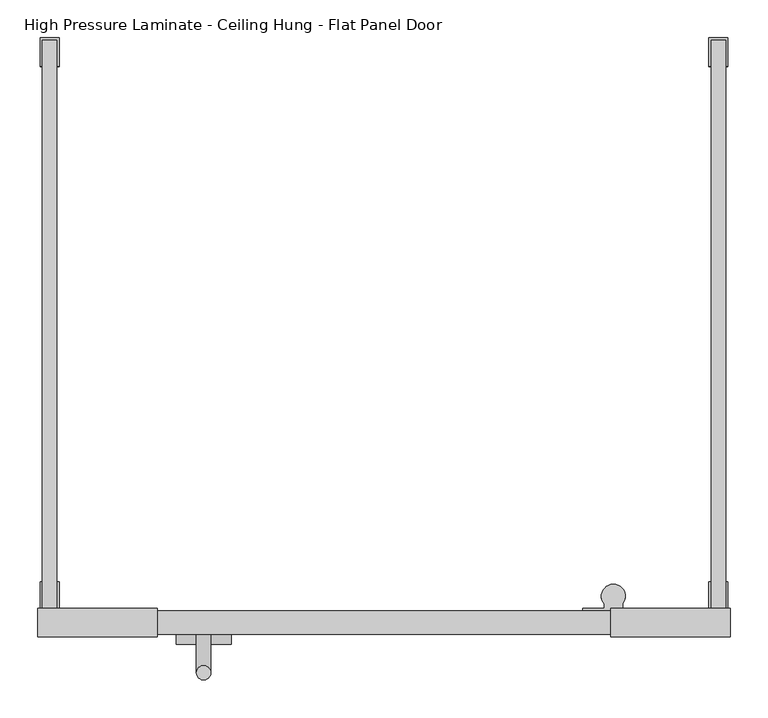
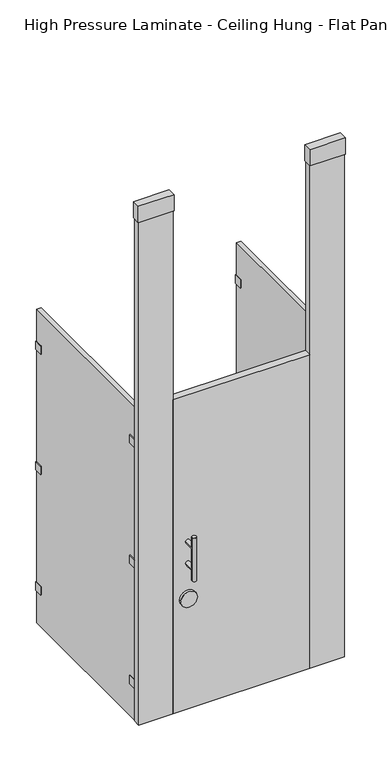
"""IFC4 building model written with IfcOpenShell, lengths in millimetres: proxy geometry, Toilet-Partition_Ironwood-Mfg_High-Pressure-Laminate : High Pressure Laminate - Ceiling Hung - Flat Panel Door."""

from ifc_helpers import new_model, si_unit, point, frame, frame_2d, origin, place, context, project, spatial, polyline, circle_curve, ellipse_curve, trimmed, segment, composite_curve, outline, extrude, source, transform, mapped, element, save
from ifc_brep_helpers import plane_surface, cylinder_surface, advanced_brep


def high_pressure_laminate_ceiling_hung_flat_panel_door_457f9348(model_context):
    return source(origin(), model_context, "Body", "SolidModel", [
        extrude(outline(polyline([(542.925, -796.925), (542.925, -758.825), (701.675, -758.825), (701.675, -796.925), (542.925, -796.925)])), frame((0.0, 0.0, 2667.0), z_axis=(0.0, 0.0, 1.0), x_axis=(1.0, 0.0, 0.0)), (0.0, 0.0, 1.0), 76.1999999),
        extrude(outline(polyline([(0.0, 152.4), (31.75, 152.4), (31.75, 0.0), (0.0, 0.0), (0.0, 152.4)])), frame((546.1, -762.0, 304.8), z_axis=(1.181277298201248e-12, 0.0, 1.0), x_axis=(0.0, -1.0, 0.0)), (0.0, 0.0, 1.0), 2362.2),
        extrude(outline(polyline([(-60.325, -796.925), (-219.075, -796.925), (-219.075, -758.825), (-60.325, -758.825), (-60.325, -796.925)])), frame((0.0, 0.0, 2667.0), z_axis=(0.0, 0.0, 1.0), x_axis=(1.0, 0.0, 0.0)), (0.0, 0.0, 1.0), 76.1999999),
        extrude(outline(polyline([(0.0, -152.4), (0.0, 0.0), (31.75, 0.0), (31.75, -152.4), (0.0, -152.4)])), frame((-63.5, -762.0, 304.8), z_axis=(-1.1812772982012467e-12, 0.0, 1.0), x_axis=(0.0, -1.0, 0.0)), (0.0, 0.0, 1.0), 2362.2),
        extrude(outline(polyline([(546.1, -793.75), (-63.5, -793.75), (-63.5, -762.0), (546.1, -762.0), (546.1, -793.75)])), frame((0.0, 0.0, 304.8), z_axis=(0.0, 0.0, 1.0), x_axis=(1.0, 0.0, 0.0)), (0.0, 0.0, 1.0), 1473.2),
        extrude(outline(composite_curve([segment(trimmed(circle_curve(frame_2d((827.0875, 1.5875)), 36.5125), [point((827.0875, -34.925))], [point((827.0875, 38.1))], False, "CARTESIAN"), True, "CONTINUOUS"), segment(trimmed(circle_curve(frame_2d((827.0875, 1.5875)), 36.5125), [point((827.0875, 38.1))], [point((827.0875, -34.925))], False, "CARTESIAN"), True, "CONTINUOUS")], self_intersect=False)), frame((0.0, -806.45, 0.0), z_axis=(0.0, 1.0, 0.0), x_axis=(0.0, 0.0, 1.0)), (0.0, 0.0, 1.0), 12.7),
        advanced_brep(
        [(-7.9375, -793.75, 1092.2), (11.1125, -793.75, 1092.2), (-7.9375, -793.75, 990.6), (11.1125, -793.75, 990.6), (11.1125, -844.55, 1092.2), (-7.9375, -844.55, 1092.2), (11.1125, -844.55, 990.6), (-7.9375, -844.55, 990.6), (-7.9375, -844.55, 1143.0), (11.1125, -844.55, 1143.0), (-7.9375, -844.55, 939.8), (11.1125, -844.55, 939.8)],
        [
            (0, 1, circle_curve(frame((1.5875, -793.75, 1092.2), z_axis=(0.0, 1.0, 0.0), x_axis=(1.0, 0.0, 0.0)), 9.525)),
            (1, 0, circle_curve(frame((1.5875, -793.75, 1092.2), z_axis=(0.0, 1.0, 0.0), x_axis=(1.0, 0.0, 0.0)), 9.525)),
            (2, 3, circle_curve(frame((1.5875, -793.75, 990.6), z_axis=(0.0, 1.0, 0.0), x_axis=(1.0, 0.0, 0.0)), 9.525)),
            (3, 2, circle_curve(frame((1.5875, -793.75, 990.6), z_axis=(0.0, 1.0, 0.0), x_axis=(1.0, 0.0, 0.0)), 9.525)),
            (1, 4),
            (4, 5, ellipse_curve(frame((1.5875, -844.55, 1092.2), z_axis=(0.0, 0.7071067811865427, 0.7071067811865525), x_axis=(0.0, -0.7071067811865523, 0.7071067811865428)), 13.4703842, 9.525)),
            (5, 0),
            (5, 4, ellipse_curve(frame((1.5875, -844.55, 1092.2), z_axis=(0.0, 0.7071067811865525, -0.7071067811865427), x_axis=(0.0, -0.7071067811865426, -0.7071067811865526)), 13.4703842, 9.525)),
            (3, 6),
            (6, 7, ellipse_curve(frame((1.5875, -844.55, 990.6), z_axis=(0.0, 0.7071067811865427, 0.7071067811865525), x_axis=(0.0, -0.7071067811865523, 0.7071067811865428)), 13.4703842, 9.525)),
            (7, 2),
            (7, 6, ellipse_curve(frame((1.5875, -844.55, 990.6), z_axis=(0.0, 0.7071067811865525, -0.7071067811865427), x_axis=(0.0, -0.7071067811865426, -0.7071067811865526)), 13.4703842, 9.525)),
            (8, 9, circle_curve(frame((1.5875, -844.55, 1143.0), z_axis=(0.0, 0.0, 1.0), x_axis=(1.0, 0.0, 0.0)), 9.525)),
            (9, 8, circle_curve(frame((1.5875, -844.55, 1143.0), z_axis=(0.0, 0.0, 1.0), x_axis=(1.0, 0.0, 0.0)), 9.525)),
            (10, 11, circle_curve(frame((1.5875, -844.55, 939.8), z_axis=(0.0, 0.0, -1.0), x_axis=(1.0, 0.0, 0.0)), 9.525)),
            (11, 10, circle_curve(frame((1.5875, -844.55, 939.8), z_axis=(0.0, 0.0, -1.0), x_axis=(1.0, 0.0, 0.0)), 9.525)),
            (8, 5),
            (5, 7),
            (7, 10),
            (11, 6),
            (6, 4),
            (4, 9),
        ],
        [
            plane_surface(frame((11.1125, -793.75, 1092.2), z_axis=(0.0, 1.0, 0.0), x_axis=(0.0, 0.0, -1.0))),
            cylinder_surface(frame((1.5875, -793.75, 1092.2), z_axis=(0.0, -1.0, 0.0), x_axis=(1.0, 0.0, 0.0)), 9.525),
            cylinder_surface(frame((1.5875, -793.75, 990.6), z_axis=(0.0, -1.0, 0.0), x_axis=(1.0, 0.0, 0.0)), 9.525),
            plane_surface(frame((11.1125, -844.55, 1143.0), z_axis=(0.0, 0.0, 1.0), x_axis=(0.0, 1.0, 0.0))),
            plane_surface(frame((11.1125, -844.55, 939.8), z_axis=(0.0, 0.0, -1.0), x_axis=(0.0, -1.0, 0.0))),
            cylinder_surface(frame((1.5875, -844.55, 939.8), z_axis=(0.0, 0.0, 1.0), x_axis=(1.0, 0.0, 0.0)), 9.525),
        ],
        [
            (0, [[1, 2]]),
            (0, [[3, 4]]),
            (1, [[-2, 5, 6, 7]]),
            (1, [[-1, -7, 8, -5]]),
            (2, [[-4, 9, 10, 11]]),
            (2, [[-3, -11, 12, -9]]),
            (3, [[13, 14]]),
            (4, [[15, 16]]),
            (5, [[-13, 17, 18, 19, -16, 20, 21, 22]]),
            (5, [[-14, -22, -8, -17]]),
            (5, [[-15, -19, -10, -20]]),
            (5, [[-18, -6, -21, -12]]),
        ],
    ),
        extrude(outline(composite_curve([segment(polyline([(581.3737081, -762.0), (505.1737081, -762.0), (505.1737081, -758.825), (533.7487081, -758.825), (533.7487081, -752.9581331)]), True, "CONTINUOUS"), segment(trimmed(circle_curve(frame_2d((546.1, -742.8902139)), 15.9347861), [point((533.7487081, -752.9581331))], [point((558.4512919, -752.9581331))], False, "CARTESIAN"), True, "CONTINUOUS"), segment(polyline([(558.4512919, -752.9581331), (558.4512919, -758.825), (581.3737081, -758.825), (581.3737081, -762.0)]), True, "CONTINUOUS")], self_intersect=False)), frame((0.0, 0.0, 1574.8), z_axis=(0.0, 0.0, 1.0), x_axis=(1.0, 0.0, 0.0)), (0.0, 0.0, 1.0), 63.5),
        extrude(outline(composite_curve([segment(polyline([(581.3737081, -762.0), (505.1737081, -762.0), (505.1737081, -758.825), (533.7487081, -758.825), (533.7487081, -752.9581331)]), True, "CONTINUOUS"), segment(trimmed(circle_curve(frame_2d((546.1, -742.8902139)), 15.9347861), [point((533.7487081, -752.9581331))], [point((558.4512919, -752.9581331))], False, "CARTESIAN"), True, "CONTINUOUS"), segment(polyline([(558.4512919, -752.9581331), (558.4512919, -758.825), (581.3737081, -758.825), (581.3737081, -762.0)]), True, "CONTINUOUS")], self_intersect=False)), frame((0.0, 0.0, 1009.6500001), z_axis=(0.0, 0.0, 1.0), x_axis=(1.0, 0.0, 0.0)), (0.0, 0.0, 1.0), 63.5),
        extrude(outline(composite_curve([segment(polyline([(581.3737081, -762.0), (505.1737081, -762.0), (505.1737081, -758.825), (533.7487081, -758.825), (533.7487081, -752.9581331)]), True, "CONTINUOUS"), segment(trimmed(circle_curve(frame_2d((546.1, -742.8902139)), 15.9347861), [point((533.7487081, -752.9581331))], [point((558.4512919, -752.9581331))], False, "CARTESIAN"), True, "CONTINUOUS"), segment(polyline([(558.4512919, -752.9581331), (558.4512919, -758.825), (581.3737081, -758.825), (581.3737081, -762.0)]), True, "CONTINUOUS")], self_intersect=False)), frame((0.0, 0.0, 444.5), z_axis=(0.0, 0.0, 1.0), x_axis=(1.0, 0.0, 0.0)), (0.0, 0.0, 1.0), 63.5),
        extrude(outline(polyline([(676.148, -723.9), (676.148, -758.825), (695.198, -758.825), (695.198, -723.9), (698.373, -723.9), (698.373, -762.0), (672.973, -762.0), (672.973, -723.9), (676.148, -723.9)])), frame((0.0, 0.0, 1587.8188137), z_axis=(0.0, 0.0, 1.0), x_axis=(1.0, 0.0, 0.0)), (0.0, 0.0, 1.0), 38.1),
        extrude(outline(polyline([(676.148, -38.1), (672.973, -38.1), (672.973, 0.0), (698.373, 0.0), (698.373, -38.1), (695.198, -38.1), (695.198, -3.175), (676.148, -3.175), (676.148, -38.1)])), frame((0.0, 0.0, 1587.8188137), z_axis=(0.0, 0.0, 1.0), x_axis=(1.0, 0.0, 0.0)), (0.0, 0.0, 1.0), 38.1),
        extrude(outline(polyline([(676.148, -723.9), (676.148, -758.825), (695.198, -758.825), (695.198, -723.9), (698.373, -723.9), (698.373, -762.0), (672.973, -762.0), (672.973, -723.9), (676.148, -723.9)])), frame((0.0, 0.0, 1022.35), z_axis=(0.0, 0.0, 1.0), x_axis=(1.0, 0.0, 0.0)), (0.0, 0.0, 1.0), 38.1),
        extrude(outline(polyline([(676.148, -38.1), (672.973, -38.1), (672.973, 0.0), (698.373, 0.0), (698.373, -38.1), (695.198, -38.1), (695.198, -3.175), (676.148, -3.175), (676.148, -38.1)])), frame((0.0, 0.0, 1022.35), z_axis=(0.0, 0.0, 1.0), x_axis=(1.0, 0.0, 0.0)), (0.0, 0.0, 1.0), 38.1),
        extrude(outline(polyline([(676.148, -723.9), (676.148, -758.825), (695.198, -758.825), (695.198, -723.9), (698.373, -723.9), (698.373, -762.0), (672.973, -762.0), (672.973, -723.9), (676.148, -723.9)])), frame((0.0, 0.0, 457.2), z_axis=(0.0, 0.0, 1.0), x_axis=(1.0, 0.0, 0.0)), (0.0, 0.0, 1.0), 38.1),
        extrude(outline(polyline([(676.148, -38.1), (672.973, -38.1), (672.973, 0.0), (698.373, 0.0), (698.373, -38.1), (695.198, -38.1), (695.198, -3.175), (676.148, -3.175), (676.148, -38.1)])), frame((0.0, 0.0, 457.2), z_axis=(0.0, 0.0, 1.0), x_axis=(1.0, 0.0, 0.0)), (0.0, 0.0, 1.0), 38.1),
        extrude(outline(polyline([(-212.598, -723.9), (-212.598, -758.825), (-193.548, -758.825), (-193.548, -723.9), (-190.373, -723.9), (-190.373, -762.0), (-215.773, -762.0), (-215.773, -723.9), (-212.598, -723.9)])), frame((0.0, 0.0, 1587.8188137), z_axis=(0.0, 0.0, 1.0), x_axis=(1.0, 0.0, 0.0)), (0.0, 0.0, 1.0), 38.1),
        extrude(outline(polyline([(-212.598, -38.1), (-215.773, -38.1), (-215.773, 0.0), (-190.373, 0.0), (-190.373, -38.1), (-193.548, -38.1), (-193.548, -3.175), (-212.598, -3.175), (-212.598, -38.1)])), frame((0.0, 0.0, 1587.8188137), z_axis=(0.0, 0.0, 1.0), x_axis=(1.0, 0.0, 0.0)), (0.0, 0.0, 1.0), 38.1),
        extrude(outline(polyline([(-212.598, -723.9), (-212.598, -758.825), (-193.548, -758.825), (-193.548, -723.9), (-190.373, -723.9), (-190.373, -762.0), (-215.773, -762.0), (-215.773, -723.9), (-212.598, -723.9)])), frame((0.0, 0.0, 1022.35), z_axis=(0.0, 0.0, 1.0), x_axis=(1.0, 0.0, 0.0)), (0.0, 0.0, 1.0), 38.1),
        extrude(outline(polyline([(-212.598, -38.1), (-215.773, -38.1), (-215.773, 0.0), (-190.373, 0.0), (-190.373, -38.1), (-193.548, -38.1), (-193.548, -3.175), (-212.598, -3.175), (-212.598, -38.1)])), frame((0.0, 0.0, 1022.35), z_axis=(0.0, 0.0, 1.0), x_axis=(1.0, 0.0, 0.0)), (0.0, 0.0, 1.0), 38.1),
        extrude(outline(polyline([(-212.598, -723.9), (-212.598, -758.825), (-193.548, -758.825), (-193.548, -723.9), (-190.373, -723.9), (-190.373, -762.0), (-215.773, -762.0), (-215.773, -723.9), (-212.598, -723.9)])), frame((0.0, 0.0, 457.2), z_axis=(0.0, 0.0, 1.0), x_axis=(1.0, 0.0, 0.0)), (0.0, 0.0, 1.0), 38.1),
        extrude(outline(polyline([(-212.598, -38.1), (-215.773, -38.1), (-215.773, 0.0), (-190.373, 0.0), (-190.373, -38.1), (-193.548, -38.1), (-193.548, -3.175), (-212.598, -3.175), (-212.598, -38.1)])), frame((0.0, 0.0, 457.2), z_axis=(0.0, 0.0, 1.0), x_axis=(1.0, 0.0, 0.0)), (0.0, 0.0, 1.0), 38.1),
        extrude(outline(polyline([(-193.548, -3.175), (-193.548, -758.825), (-212.598, -758.825), (-212.598, -3.175), (-193.548, -3.175)])), frame((0.0, 0.0, 304.8), z_axis=(0.0, 0.0, 1.0), x_axis=(1.0, 0.0, 0.0)), (0.0, 0.0, 1.0), 1473.2),
        extrude(outline(polyline([(695.198, -3.175), (695.198, -758.825), (676.148, -758.825), (676.148, -3.175), (695.198, -3.175)])), frame((0.0, 0.0, 304.8), z_axis=(0.0, 0.0, 1.0), x_axis=(1.0, 0.0, 0.0)), (0.0, 0.0, 1.0), 1473.2),
    ])


if __name__ == "__main__":
    model = new_model("IFC4")
    model_context = context("Model", 3, world=origin())
    ifc_project = project(units=[si_unit("LENGTHUNIT", "METRE", prefix="MILLI")], contexts=[model_context])
    site = spatial("IfcSite", under=ifc_project)
    building = spatial("IfcBuilding", under=site)
    placement = place(None, origin())
    high_pressure_laminate_ceiling_hung_flat_panel_door_shape = high_pressure_laminate_ceiling_hung_flat_panel_door_457f9348(model_context)
    element("IfcBuildingElementProxy", 1, Name="Toilet-Partition_Ironwood-Mfg_High-Pressure-Laminate : High Pressure Laminate - Ceiling Hung - Flat Panel Door", ObjectType="Toilet-Partition_Ironwood-Mfg_High-Pressure-Laminate : High Pressure Laminate - Ceiling Hung - Flat Panel Door", at=placement, inside=building, context=model_context, shape_type="MappedRepresentation", body=[
        mapped(high_pressure_laminate_ceiling_hung_flat_panel_door_shape, transform((0.0, 0.0, 0.0), x_axis=(1.0, 0.0, 0.0), y_axis=(0.0, 1.0, 0.0), z_axis=(0.0, 0.0, 1.0))),
    ])
    save(model, "model.ifc")
